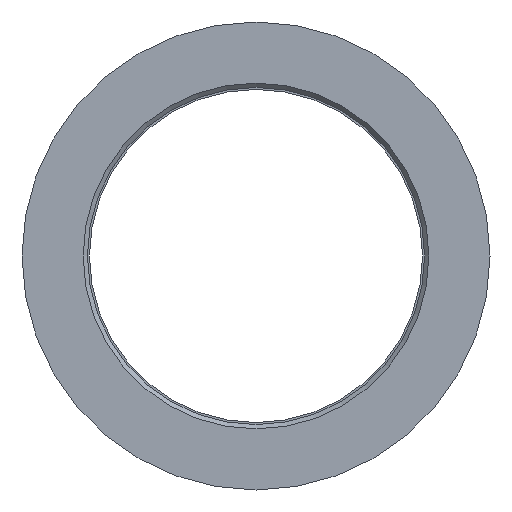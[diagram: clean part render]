
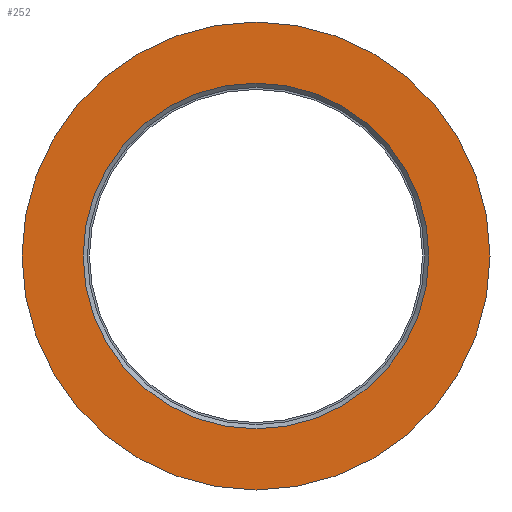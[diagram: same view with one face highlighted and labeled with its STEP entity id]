
A CAD part, left-side view. The second image highlights one B-rep face of the part: STEP entity #252.
In plain terms, the highlighted planar face has unit normal (-1, 0, 0).
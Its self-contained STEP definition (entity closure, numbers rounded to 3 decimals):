
#22=FACE_BOUND('',#59,.T.);
#29=PLANE('',#298);
#40=FACE_OUTER_BOUND('',#58,.T.);
#58=EDGE_LOOP('',(#188));
#59=EDGE_LOOP('',(#189));
#101=CIRCLE('',#293,21.79);
#105=CIRCLE('',#299,29.5);
#121=VERTEX_POINT('',#424);
#125=VERTEX_POINT('',#436);
#143=EDGE_CURVE('',#121,#121,#101,.T.);
#149=EDGE_CURVE('',#125,#125,#105,.T.);
#188=ORIENTED_EDGE('',*,*,#149,.F.);
#189=ORIENTED_EDGE('',*,*,#143,.F.);
#252=ADVANCED_FACE('',(#40,#22),#29,.T.);
#293=AXIS2_PLACEMENT_3D('',#425,#343,#344);
#298=AXIS2_PLACEMENT_3D('',#435,#355,#356);
#299=AXIS2_PLACEMENT_3D('',#437,#357,#358);
#343=DIRECTION('center_axis',(-1.,0.,0.));
#344=DIRECTION('ref_axis',(0.,-1.,0.));
#355=DIRECTION('center_axis',(-1.,0.,0.));
#356=DIRECTION('ref_axis',(0.,0.,1.));
#357=DIRECTION('center_axis',(1.,0.,0.));
#358=DIRECTION('ref_axis',(0.,0.,-1.));
#424=CARTESIAN_POINT('',(0.,21.79,0.));
#425=CARTESIAN_POINT('Origin',(0.,0.,0.));
#435=CARTESIAN_POINT('Origin',(0.,29.5,0.));
#436=CARTESIAN_POINT('',(0.,-29.5,0.));
#437=CARTESIAN_POINT('Origin',(0.,0.,0.));
